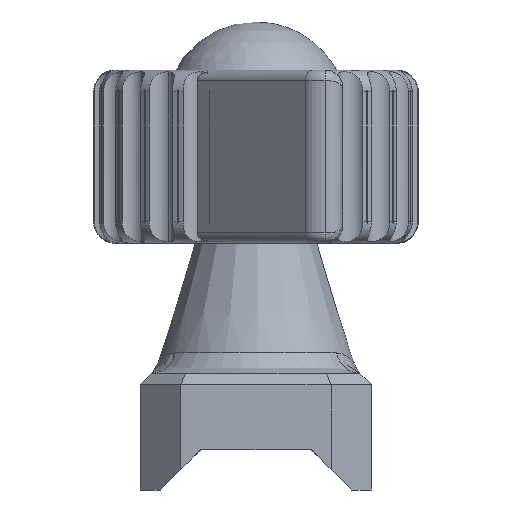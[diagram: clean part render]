
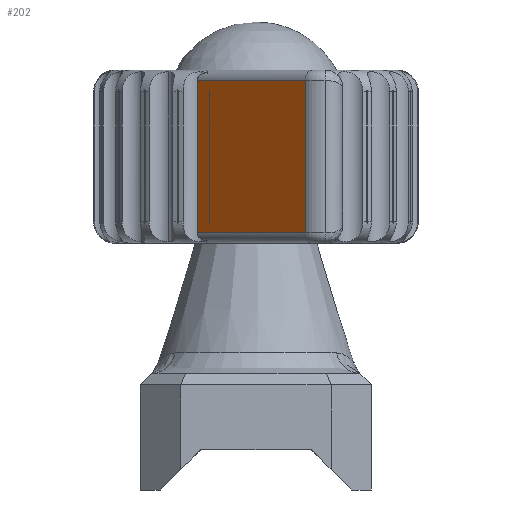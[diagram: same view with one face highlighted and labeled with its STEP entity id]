
A CAD part, front view. The second image highlights one B-rep face of the part: STEP entity #202.
In plain terms, the highlighted planar face has unit normal (-0.707, -0.708, 0).
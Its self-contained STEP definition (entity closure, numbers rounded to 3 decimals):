
#163=CARTESIAN_POINT('',(-2.513,-101.5,38.));
#164=DIRECTION('',(-0.707,-0.707,0.));
#165=DIRECTION('',(0.707,-0.707,0.));
#166=AXIS2_PLACEMENT_3D('',#163,#164,#165);
#167=PLANE('',#166);
#168=CARTESIAN_POINT('',(8.536,-112.538,-18.1));
#169=VERTEX_POINT('',#168);
#170=CARTESIAN_POINT('',(-10.186,-93.835,-18.1));
#171=VERTEX_POINT('',#170);
#172=CARTESIAN_POINT('',(8.536,-112.538,-18.1));
#173=DIRECTION('',(-0.707,0.707,0.));
#174=VECTOR('',#173,26.464);
#175=LINE('',#172,#174);
#176=EDGE_CURVE('',#169,#171,#175,.T.);
#177=ORIENTED_EDGE('',*,*,#176,.T.);
#178=CARTESIAN_POINT('',(-10.186,-93.835,-44.5));
#179=VERTEX_POINT('',#178);
#180=CARTESIAN_POINT('',(-10.186,-93.835,-44.5));
#181=DIRECTION('',(-0.,-0.,1.));
#182=VECTOR('',#181,26.4);
#183=LINE('',#180,#182);
#184=EDGE_CURVE('',#179,#171,#183,.T.);
#185=ORIENTED_EDGE('',*,*,#184,.F.);
#186=CARTESIAN_POINT('',(8.536,-112.538,-44.5));
#187=VERTEX_POINT('',#186);
#188=CARTESIAN_POINT('',(-10.186,-93.835,-44.5));
#189=DIRECTION('',(0.707,-0.707,-0.));
#190=VECTOR('',#189,26.464);
#191=LINE('',#188,#190);
#192=EDGE_CURVE('',#179,#187,#191,.T.);
#193=ORIENTED_EDGE('',*,*,#192,.T.);
#194=CARTESIAN_POINT('',(8.536,-112.538,-44.5));
#195=DIRECTION('',(0.,0.,1.));
#196=VECTOR('',#195,26.4);
#197=LINE('',#194,#196);
#198=EDGE_CURVE('',#187,#169,#197,.T.);
#199=ORIENTED_EDGE('',*,*,#198,.T.);
#200=EDGE_LOOP('',(#177,#185,#193,#199));
#201=FACE_BOUND('',#200,.T.);
#202=ADVANCED_FACE('',(#201),#167,.T.);
